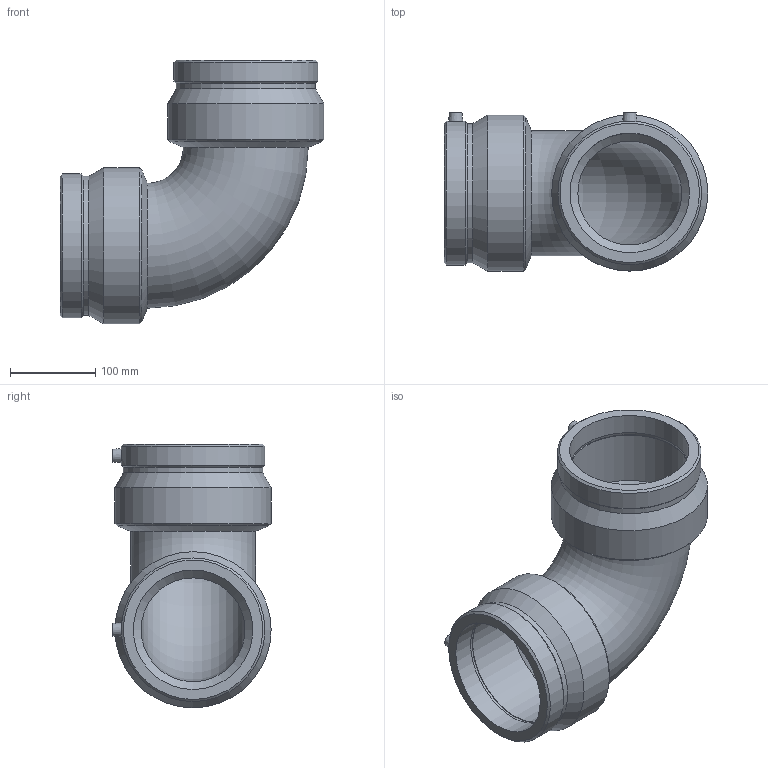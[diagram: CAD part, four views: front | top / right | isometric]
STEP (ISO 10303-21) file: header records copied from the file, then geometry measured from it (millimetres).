
FILE_DESCRIPTION(/* description */ ('PLASSON 90° ELBOW 140'),/* implementation_level */ '2;1');
FILE_NAME(/* name */ '490504140.stp',/* time_stamp */ '2026-03-22T13:12:49+02:00',/* author */ ('KIM'),/* organization */ (''),/* preprocessor_version */ 'ST-DEVELOPER v20.1',/* originating_system */ 'Autodesk Inventor 2026',/* authorisation */ '');
FILE_SCHEMA (('AUTOMOTIVE_DESIGN { 1 0 10303 214 3 1 1 }'));
Length unit declared in the file: millimetre
Products named in the file (1): 490504140
Bounding box: 309 x 185.5 x 309 mm (x, y, z)
Volume: 2739104.1 mm3; surface area: 388049.1 mm2
Topology: 1 solids, 1 shells, 42 faces, 82 edges, 50 vertices
Faces by surface type: cone 16, cylinder 14, plane 10, torus 2
Full cylindrical faces by diameter (mm): 4 x2, 10 x2, 140 x4, 163.309 x2, 168.36 x2, 183 x2
Entity records: 1189 total; most frequent: CARTESIAN_POINT 243, DIRECTION 212, ORIENTED_EDGE 164, AXIS2_PLACEMENT_3D 91, EDGE_CURVE 82, EDGE_LOOP 52, VERTEX_POINT 50, CIRCLE 48
